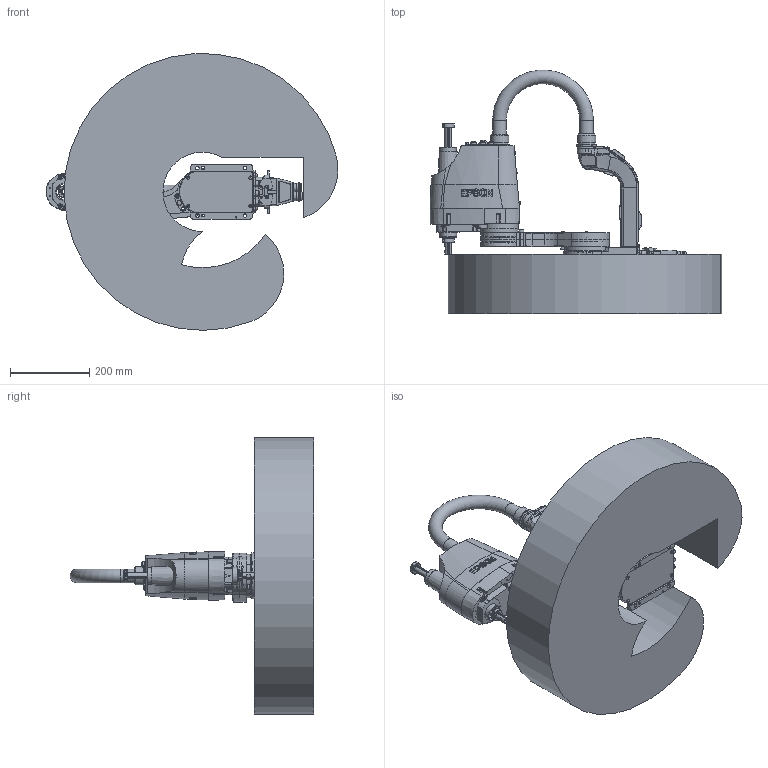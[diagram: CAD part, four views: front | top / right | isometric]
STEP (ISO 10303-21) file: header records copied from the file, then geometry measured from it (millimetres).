
FILE_DESCRIPTION( ( 'STEP AP214' ), '1' );
FILE_NAME( 'C:/Users/9607552/Desktop/GX4-A/GX4-A351S-RS-W.stp', '2023-04-07T04:52:20', ( '' ), ( '' ), ' ', 'PARTsolutions', ' ' );
FILE_SCHEMA( ( 'AUTOMOTIVE_DESIGN { 1 0 10303 214 1 1 1 1 }' ) );
Length unit declared in the file: millimetre
Products named in the file (8): GX4-A351S-RS-W; _A251S-b; _A351S-R_J1_ARM; _A251S-a; _A351S_CONDUIT; _A251S; _Straight; _GX4-33_WS
Assembly tree (7 placements, depth 2):
  GX4-A351S-RS-W
    _A251S-b
    _A351S-R_J1_ARM
    _A251S-a
    _A351S_CONDUIT
    _A251S
    _Straight
    _GX4-33_WS
Bounding box: 737.83 x 615.58 x 699.31 mm (x, y, z)
Volume: 51048182.4 mm3; surface area: 1784517.5 mm2
Topology: 7 solids, 7 shells, 3950 faces, 9683 edges, 6288 vertices
Faces by surface type: plane 2288, cylinder 1118, cone 353, torus 98, bspline 90, sphere 3
Full cylindrical faces by diameter (mm): 1 x30, 1.13 x55, 1.18 x55, 2.459 x4, 2.5 x19, 2.99 x1, 3 x35, 3.2 x4, 3.242 x1, 3.3 x44, 3.4 x32, 3.5 x12, 4 x2, 4.5 x24, 4.8 x8, 4.917 x2, 5 x1, 5.34 x8, 5.4 x14, 5.5 x26, 5.6 x4, 5.68 x4, 5.9 x4, 5.999 x8, 6 x9, 6.7 x4, 6.8 x7, 7 x44, 7.1 x4, 7.8 x4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
Entity records: 148588 total; most frequent: CARTESIAN_POINT 28641, DIRECTION 17493, ORIENTED_EDGE 17490, EDGE_CURVE 8745, AXIS2_PLACEMENT_3D 6660, VERTEX_POINT 6190, EDGE_LOOP 5393, FACE_OUTER_BOUND 4597
